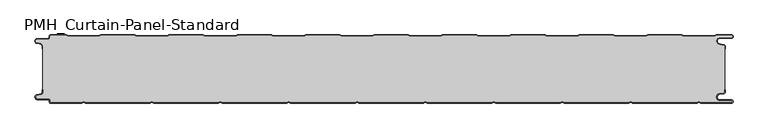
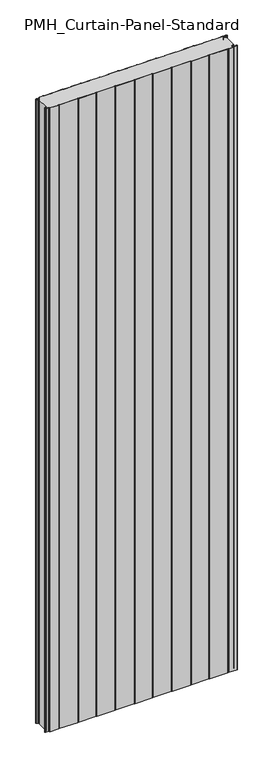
"""IFC4 building model written with IfcOpenShell, lengths in millimetres: plate geometry, PMH_Curtain-Panel-Standard : ACH_PMH_Acoustic-Sectioning-Panel_100M."""

from ifc_helpers import new_model, si_unit, point, frame_2d, origin, origin_with_axes, place, context, project, spatial, polyline, circle_curve, trimmed, segment, composite_curve, outline, extrude, source, transform, mapped, element, save


def pmh_curtain_panel_standard_6cec185c(model_context):
    return source(origin(), model_context, "Body", "SweptSolid", [
        extrude(outline(composite_curve([segment(polyline([(-500.0, 15.878557), (-500.0, 20.0), (-499.2, 20.0), (-499.2, 15.878557)]), True, "CONTINUOUS"), segment(trimmed(circle_curve(frame_2d((-502.0, 15.878557)), 2.8), [point((-499.2, 15.878557))], [point((-501.370137, 13.1503208))], False, "CARTESIAN"), True, "CONTINUOUS"), segment(polyline([(-501.370137, 13.1503208), (-507.529863, 11.728236)]), True, "CONTINUOUS"), segment(trimmed(circle_curve(frame_2d((-506.9, 9.0)), 2.8), [point((-507.529863, 11.728236))], [point((-506.9, 6.2))], True, "CARTESIAN"), True, "CONTINUOUS"), segment(polyline([(-506.9, 6.2), (-491.4, 6.2)]), True, "CONTINUOUS"), segment(trimmed(circle_curve(frame_2d((-491.4, 3.4)), 2.8), [point((-491.4, 6.2))], [point((-488.6, 3.4))], False, "CARTESIAN"), True, "CONTINUOUS"), segment(polyline([(-488.6, 3.4), (-488.6, 2.0)]), True, "CONTINUOUS"), segment(trimmed(circle_curve(frame_2d((-487.4, 2.0)), 1.2), [point((-488.6, 2.0))], [point((-487.4, 0.8))], True, "CARTESIAN"), True, "CONTINUOUS"), segment(polyline([(-487.4, 0.8), (-442.3143588, 0.8), (-439.4, 2.482606), (-436.4856412, 0.8), (-342.3143588, 0.8), (-339.4, 2.482606), (-336.4856412, 0.8), (-242.3143588, 0.8), (-239.4, 2.482606), (-236.4856412, 0.8), (-142.3143588, 0.8), (-139.4, 2.482606), (-136.4856412, 0.8), (-42.3143588, 0.8), (-39.4, 2.482606), (-36.4856412, 0.8), (57.6856412, 0.8), (60.6, 2.482606), (63.5143588, 0.8), (157.6856412, 0.8), (160.6, 2.482606), (163.5143588, 0.8), (257.6856412, 0.8), (260.6, 2.482606), (263.5143588, 0.8), (357.6856412, 0.8), (360.6, 2.482606), (363.5143588, 0.8), (457.6856412, 0.8), (460.6, 2.482606), (463.5143588, 0.8), (508.1, 0.8)]), True, "CONTINUOUS"), segment(trimmed(circle_curve(frame_2d((508.1, 2.5)), 1.7), [point((508.1, 0.8))], [point((508.1, 4.2))], True, "CARTESIAN"), True, "CONTINUOUS"), segment(polyline([(508.1, 4.2), (491.1, 4.2)]), True, "CONTINUOUS"), segment(trimmed(circle_curve(frame_2d((491.1, 9.0)), 4.8), [point((491.1, 4.2))], [point((490.2664884, 13.7270771))], False, "CARTESIAN"), True, "CONTINUOUS"), segment(polyline([(490.2664884, 13.7270771), (496.7125669, 14.8636953)]), True, "CONTINUOUS"), segment(trimmed(circle_curve(frame_2d((496.4, 16.6363492)), 1.8), [point((496.7125669, 14.8636953))], [point((498.2, 16.6363492))], True, "CARTESIAN"), True, "CONTINUOUS"), segment(polyline([(498.2, 16.6363492), (498.2, 20.0), (499.0, 20.0), (499.0, 16.6363492)]), True, "CONTINUOUS"), segment(trimmed(circle_curve(frame_2d((496.4, 16.6363492)), 2.6), [point((499.0, 16.6363492))], [point((496.8514855, 14.0758491))], False, "CARTESIAN"), True, "CONTINUOUS"), segment(polyline([(496.8514855, 14.0758491), (490.405407, 12.939231)]), True, "CONTINUOUS"), segment(trimmed(circle_curve(frame_2d((491.1, 9.0)), 4.0), [point((490.405407, 12.939231))], [point((491.1, 5.0))], True, "CARTESIAN"), True, "CONTINUOUS"), segment(polyline([(491.1, 5.0), (508.1, 5.0)]), True, "CONTINUOUS"), segment(trimmed(circle_curve(frame_2d((508.1, 2.5)), 2.5), [point((508.1, 5.0))], [point((508.1, 0.0))], False, "CARTESIAN"), True, "CONTINUOUS"), segment(polyline([(508.1, 0.0), (463.2999995, 0.0), (460.6, 1.5588455), (457.9000005, 0.0), (363.2999995, 0.0), (360.6, 1.5588455), (357.9000005, 0.0), (263.2999995, 0.0), (260.6, 1.5588455), (257.9000005, 0.0), (163.2999995, 0.0), (160.6, 1.5588455), (157.9000005, 0.0), (63.2999995, 0.0), (60.6, 1.5588455), (57.9000005, 0.0), (-36.7000005, 0.0), (-39.4, 1.5588455), (-42.0999995, 0.0), (-136.7000005, 0.0), (-139.4, 1.5588455), (-142.0999995, 0.0), (-236.7000005, 0.0), (-239.4, 1.5588455), (-242.0999995, 0.0), (-336.7000005, 0.0), (-339.4, 1.5588455), (-342.0999995, 0.0), (-436.7000005, 0.0), (-439.4, 1.5588455), (-442.0999995, 0.0), (-487.4, 0.0)]), True, "CONTINUOUS"), segment(trimmed(circle_curve(frame_2d((-487.4, 2.0)), 2.0), [point((-487.4, 0.0))], [point((-489.4, 2.0))], False, "CARTESIAN"), True, "CONTINUOUS"), segment(polyline([(-489.4, 2.0), (-489.4, 3.4)]), True, "CONTINUOUS"), segment(trimmed(circle_curve(frame_2d((-491.4, 3.4)), 2.0), [point((-489.4, 3.4))], [point((-491.4, 5.4))], True, "CARTESIAN"), True, "CONTINUOUS"), segment(polyline([(-491.4, 5.4), (-506.9, 5.4)]), True, "CONTINUOUS"), segment(trimmed(circle_curve(frame_2d((-506.9, 9.0)), 3.6), [point((-506.9, 5.4))], [point((-507.7098239, 12.5077322))], False, "CARTESIAN"), True, "CONTINUOUS"), segment(polyline([(-507.7098239, 12.5077322), (-501.5500979, 13.929817)]), True, "CONTINUOUS"), segment(trimmed(circle_curve(frame_2d((-502.0, 15.878557)), 2.0), [point((-501.5500979, 13.929817))], [point((-500.0, 15.878557))], True, "CARTESIAN"), True, "CONTINUOUS")], self_intersect=False)), origin_with_axes(), (0.0, 0.0, 1.0), 3500.0),
        extrude(outline(composite_curve([segment(trimmed(circle_curve(frame_2d((-502.0, 84.121443)), 2.8), [point((-499.2, 84.121443))], [point((-501.370137, 86.8496792))], True, "CARTESIAN"), True, "CONTINUOUS"), segment(polyline([(-501.370137, 86.8496792), (-507.529863, 88.271764)]), True, "CONTINUOUS"), segment(trimmed(circle_curve(frame_2d((-506.9, 91.0)), 2.7999998), [point((-507.529863, 88.271764))], [point((-506.9, 93.7999998))], False, "CARTESIAN"), True, "CONTINUOUS"), segment(polyline([(-506.9, 93.7999998), (-491.4, 93.7999998)]), True, "CONTINUOUS"), segment(trimmed(circle_curve(frame_2d((-491.4, 96.5999998)), 2.8), [point((-491.4, 93.7999998))], [point((-488.6, 96.5999998))], True, "CARTESIAN"), True, "CONTINUOUS"), segment(polyline([(-488.6, 96.5999998), (-488.6, 98.0)]), True, "CONTINUOUS"), segment(trimmed(circle_curve(frame_2d((-487.4, 98.0)), 1.2), [point((-488.6, 98.0))], [point((-487.4, 99.2))], False, "CARTESIAN"), True, "CONTINUOUS"), segment(polyline([(-487.4, 99.2), (-464.6143592, 99.2), (-462.0162816, 97.7), (-416.7875654, 97.7), (-414.1894878, 99.2), (-364.6143592, 99.2), (-362.0162816, 97.7), (-316.7875654, 97.7), (-314.1894878, 99.2), (-264.6143592, 99.2), (-262.0162816, 97.7), (-216.7875654, 97.7), (-214.1894878, 99.2), (-164.6143592, 99.2), (-162.0162816, 97.7), (-116.7875654, 97.7), (-114.1894878, 99.2), (-64.6143592, 99.2), (-62.0162816, 97.7), (-16.7875654, 97.7), (-14.1894878, 99.2), (35.3856408, 99.2), (37.9837184, 97.7), (83.2124346, 97.7), (85.8105122, 99.2), (135.3856408, 99.2), (137.9837184, 97.7), (183.2124346, 97.7), (185.8105122, 99.2), (235.3856408, 99.2), (237.9837184, 97.7), (283.2124346, 97.7), (285.8105122, 99.2), (335.3856408, 99.2), (337.9837184, 97.7), (383.2124346, 97.7), (385.8105122, 99.2), (435.3856408, 99.2), (437.9837184, 97.7), (483.2124346, 97.7), (485.8105122, 99.2), (508.1, 99.2)]), True, "CONTINUOUS"), segment(trimmed(circle_curve(frame_2d((508.1, 97.5)), 1.7), [point((508.1, 99.2))], [point((508.1, 95.8000001))], False, "CARTESIAN"), True, "CONTINUOUS"), segment(polyline([(508.1, 95.8000001), (491.1, 95.8000001)]), True, "CONTINUOUS"), segment(trimmed(circle_curve(frame_2d((491.1, 91.0000002)), 4.7999999), [point((491.1, 95.8000001))], [point((490.266489, 86.272923))], True, "CARTESIAN"), True, "CONTINUOUS"), segment(polyline([(490.266489, 86.272923), (496.7125666, 85.1363059)]), True, "CONTINUOUS"), segment(trimmed(circle_curve(frame_2d((496.4, 83.363652)), 1.8), [point((496.7125666, 85.1363059))], [point((498.2, 83.363652))], False, "CARTESIAN"), True, "CONTINUOUS"), segment(polyline([(498.2, 83.363652), (498.2, 16.6363492)]), True, "CONTINUOUS"), segment(trimmed(circle_curve(frame_2d((496.4, 16.6363492)), 1.8), [point((498.2, 16.6363492))], [point((496.7125668, 14.8636953))], False, "CARTESIAN"), True, "CONTINUOUS"), segment(polyline([(496.7125668, 14.8636953), (490.2664883, 13.7270771)]), True, "CONTINUOUS"), segment(trimmed(circle_curve(frame_2d((491.1, 9.0)), 4.8), [point((490.2664883, 13.7270771))], [point((491.1, 4.2))], True, "CARTESIAN"), True, "CONTINUOUS"), segment(polyline([(491.1, 4.2), (508.1, 4.2)]), True, "CONTINUOUS"), segment(trimmed(circle_curve(frame_2d((508.1, 2.5)), 1.7), [point((508.1, 4.2))], [point((508.1, 0.8))], False, "CARTESIAN"), True, "CONTINUOUS"), segment(polyline([(508.1, 0.8), (463.5143587, 0.8), (460.5999999, 2.482606), (457.6856411, 0.8), (363.5143588, 0.8), (360.5999999, 2.482606), (357.6856411, 0.8), (263.5143588, 0.8), (260.5999999, 2.482606), (257.6856411, 0.8), (163.5143588, 0.8), (160.5999999, 2.482606), (157.6856411, 0.8), (63.5143588, 0.8), (60.5999999, 2.482606), (57.6856411, 0.8), (-36.4856412, 0.8), (-39.4000001, 2.482606), (-42.3143589, 0.8), (-136.4856412, 0.8), (-139.4000001, 2.482606), (-142.3143589, 0.8), (-236.4856412, 0.8), (-239.4000001, 2.482606), (-242.3143589, 0.8), (-336.4856412, 0.8), (-339.4000001, 2.482606), (-342.3143589, 0.8), (-436.4856412, 0.8), (-439.4000001, 2.482606), (-442.3143589, 0.8), (-487.4000001, 0.8)]), True, "CONTINUOUS"), segment(trimmed(circle_curve(frame_2d((-487.4000001, 2.0)), 1.2), [point((-487.4000001, 0.8))], [point((-488.6000001, 2.0))], False, "CARTESIAN"), True, "CONTINUOUS"), segment(polyline([(-488.6000001, 2.0), (-488.6000001, 3.4)]), True, "CONTINUOUS"), segment(trimmed(circle_curve(frame_2d((-491.4000001, 3.4)), 2.8), [point((-488.6000001, 3.4))], [point((-491.4000001, 6.2))], True, "CARTESIAN"), True, "CONTINUOUS"), segment(polyline([(-491.4000001, 6.2), (-506.9, 6.2)]), True, "CONTINUOUS"), segment(trimmed(circle_curve(frame_2d((-506.9, 9.0)), 2.8), [point((-506.9, 6.2))], [point((-507.5298631, 11.7282362))], False, "CARTESIAN"), True, "CONTINUOUS"), segment(polyline([(-507.5298631, 11.7282362), (-501.370137, 13.1503212)]), True, "CONTINUOUS"), segment(trimmed(circle_curve(frame_2d((-502.0, 15.8785573)), 2.8), [point((-501.370137, 13.1503212))], [point((-499.2, 15.8785573))], True, "CARTESIAN"), True, "CONTINUOUS"), segment(polyline([(-499.2, 15.8785573), (-499.2, 84.121443)]), True, "CONTINUOUS")], self_intersect=False)), origin_with_axes(), (0.0, 0.0, 1.0), 3500.0),
        extrude(outline(composite_curve([segment(polyline([(-487.4, 100.0), (-464.3999999, 100.0), (-461.8019223, 98.5), (-417.0019247, 98.5), (-414.4038471, 100.0), (-364.3999999, 100.0), (-361.8019223, 98.5), (-317.0019247, 98.5), (-314.4038471, 100.0), (-264.3999999, 100.0), (-261.8019223, 98.5), (-217.0019247, 98.5), (-214.4038471, 100.0), (-164.3999999, 100.0), (-161.8019223, 98.5), (-117.0019247, 98.5), (-114.4038471, 100.0), (-64.3999999, 100.0), (-61.8019223, 98.5), (-17.0019247, 98.5), (-14.4038471, 100.0), (35.6000001, 100.0), (38.1980777, 98.5), (82.9980753, 98.5), (85.5961529, 100.0), (135.6000001, 100.0), (138.1980777, 98.5), (182.9980753, 98.5), (185.5961529, 100.0), (235.6000001, 100.0), (238.1980777, 98.5), (282.9980753, 98.5), (285.5961529, 100.0), (335.6000001, 100.0), (338.1980777, 98.5), (382.9980753, 98.5), (385.5961529, 100.0), (435.6000001, 100.0), (438.1980777, 98.5), (482.9980753, 98.5), (485.5961529, 100.0), (508.1, 100.0)]), True, "CONTINUOUS"), segment(trimmed(circle_curve(frame_2d((508.1, 97.5)), 2.5), [point((508.1, 100.0))], [point((508.1, 95.0))], False, "CARTESIAN"), True, "CONTINUOUS"), segment(polyline([(508.1, 95.0), (491.1, 95.0)]), True, "CONTINUOUS"), segment(trimmed(circle_curve(frame_2d((491.1, 91.0)), 4.0), [point((491.1, 95.0))], [point((490.4054075, 87.060769))], True, "CARTESIAN"), True, "CONTINUOUS"), segment(polyline([(490.4054075, 87.060769), (496.8514851, 85.924152)]), True, "CONTINUOUS"), segment(trimmed(circle_curve(frame_2d((496.4, 83.363652)), 2.6), [point((496.8514851, 85.924152))], [point((499.0, 83.363652))], False, "CARTESIAN"), True, "CONTINUOUS"), segment(polyline([(499.0, 83.363652), (499.0, 80.0), (498.2, 80.0), (498.2, 83.363652)]), True, "CONTINUOUS"), segment(trimmed(circle_curve(frame_2d((496.4, 83.363652)), 1.8), [point((498.2, 83.363652))], [point((496.7125666, 85.136306))], True, "CARTESIAN"), True, "CONTINUOUS"), segment(polyline([(496.7125666, 85.136306), (490.266489, 86.2729229)]), True, "CONTINUOUS"), segment(trimmed(circle_curve(frame_2d((491.1, 91.0)), 4.8), [point((490.266489, 86.2729229))], [point((491.1, 95.8))], False, "CARTESIAN"), True, "CONTINUOUS"), segment(polyline([(491.1, 95.8), (508.1, 95.8)]), True, "CONTINUOUS"), segment(trimmed(circle_curve(frame_2d((508.1, 97.5)), 1.7), [point((508.1, 95.8))], [point((508.1, 99.2))], True, "CARTESIAN"), True, "CONTINUOUS"), segment(polyline([(508.1, 99.2), (485.8105122, 99.2), (483.2124346, 97.7), (437.9837184, 97.7), (435.3856408, 99.2), (385.8105122, 99.2), (383.2124346, 97.7), (337.9837184, 97.7), (335.3856408, 99.2), (285.8105122, 99.2), (283.2124346, 97.7), (237.9837184, 97.7), (235.3856408, 99.2), (185.8105122, 99.2), (183.2124346, 97.7), (137.9837184, 97.7), (135.3856408, 99.2), (85.8105122, 99.2), (83.2124346, 97.7), (37.9837184, 97.7), (35.3856408, 99.2), (-14.1894878, 99.2), (-16.7875654, 97.7), (-62.0162816, 97.7), (-64.6143592, 99.2), (-114.1894878, 99.2), (-116.7875654, 97.7), (-162.0162816, 97.7), (-164.6143592, 99.2), (-214.1894878, 99.2), (-216.7875654, 97.7), (-262.0162816, 97.7), (-264.6143592, 99.2), (-314.1894878, 99.2), (-316.7875654, 97.7), (-362.0162816, 97.7), (-364.6143592, 99.2), (-414.1894878, 99.2), (-416.7875654, 97.7), (-462.0162816, 97.7), (-464.6143592, 99.2), (-487.4, 99.2)]), True, "CONTINUOUS"), segment(trimmed(circle_curve(frame_2d((-487.4, 98.0)), 1.2), [point((-487.4, 99.2))], [point((-488.6, 98.0))], True, "CARTESIAN"), True, "CONTINUOUS"), segment(polyline([(-488.6, 98.0), (-488.6, 96.6)]), True, "CONTINUOUS"), segment(trimmed(circle_curve(frame_2d((-491.4, 96.6)), 2.8), [point((-488.6, 96.6))], [point((-491.4, 93.8))], False, "CARTESIAN"), True, "CONTINUOUS"), segment(polyline([(-491.4, 93.8), (-506.9, 93.8)]), True, "CONTINUOUS"), segment(trimmed(circle_curve(frame_2d((-506.9, 91.0)), 2.8), [point((-506.9, 93.8))], [point((-507.529863, 88.2717638))], True, "CARTESIAN"), True, "CONTINUOUS"), segment(polyline([(-507.529863, 88.2717638), (-501.370137, 86.849679)]), True, "CONTINUOUS"), segment(trimmed(circle_curve(frame_2d((-502.0, 84.121443)), 2.8), [point((-501.370137, 86.849679))], [point((-499.2, 84.121443))], False, "CARTESIAN"), True, "CONTINUOUS"), segment(polyline([(-499.2, 84.121443), (-499.2, 80.0), (-500.0, 80.0), (-500.0, 84.121443)]), True, "CONTINUOUS"), segment(trimmed(circle_curve(frame_2d((-502.0, 84.121443)), 2.0), [point((-500.0, 84.121443))], [point((-501.5500978, 86.0701831))], True, "CARTESIAN"), True, "CONTINUOUS"), segment(polyline([(-501.5500978, 86.0701831), (-507.7098239, 87.492268)]), True, "CONTINUOUS"), segment(trimmed(circle_curve(frame_2d((-506.9, 91.0)), 3.6), [point((-507.7098239, 87.492268))], [point((-506.9, 94.6))], False, "CARTESIAN"), True, "CONTINUOUS"), segment(polyline([(-506.9, 94.6), (-491.4, 94.6)]), True, "CONTINUOUS"), segment(trimmed(circle_curve(frame_2d((-491.4, 96.6)), 2.0), [point((-491.4, 94.6))], [point((-489.4, 96.6))], True, "CARTESIAN"), True, "CONTINUOUS"), segment(polyline([(-489.4, 96.6), (-489.4, 98.0)]), True, "CONTINUOUS"), segment(trimmed(circle_curve(frame_2d((-487.4, 98.0)), 2.0), [point((-489.4, 98.0))], [point((-487.4, 100.0))], False, "CARTESIAN"), True, "CONTINUOUS")], self_intersect=False)), origin_with_axes(), (0.0, 0.0, 1.0), 3500.0),
    ])


if __name__ == "__main__":
    model = new_model("IFC4")
    model_context = context("Model", 3, world=origin())
    ifc_project = project(units=[si_unit("LENGTHUNIT", "METRE", prefix="MILLI")], contexts=[model_context])
    site = spatial("IfcSite", under=ifc_project)
    building = spatial("IfcBuilding", under=site)
    placement = place(None, origin())
    pmh_curtain_panel_standard_shape = pmh_curtain_panel_standard_6cec185c(model_context)
    element("IfcPlate", 1, ObjectType="PMH_Curtain-Panel-Standard : ACH_PMH_Acoustic-Sectioning-Panel_100M", at=placement, inside=building, context=model_context, shape_type="MappedRepresentation", body=[
        mapped(pmh_curtain_panel_standard_shape, transform((0.0, 0.0, 0.0), x_axis=(1.0, 0.0, 0.0), y_axis=(0.0, 1.0, 0.0), z_axis=(0.0, 0.0, 1.0))),
    ])
    save(model, "model.ifc")
